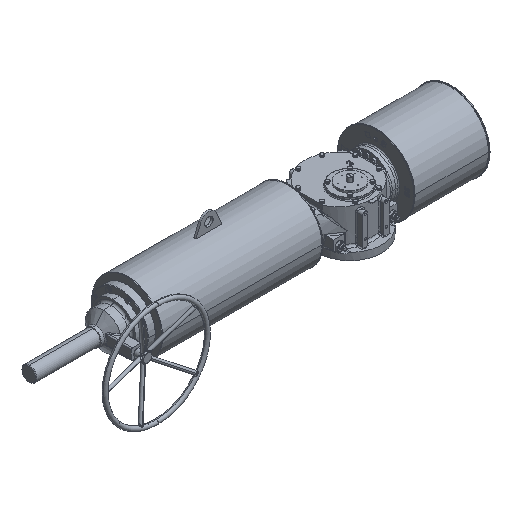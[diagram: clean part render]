
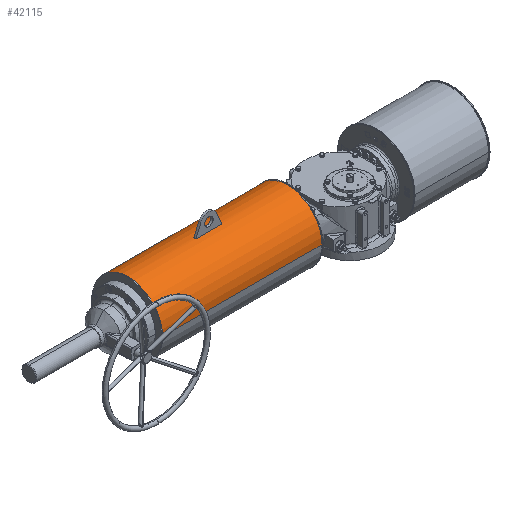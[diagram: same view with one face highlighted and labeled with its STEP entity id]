
A CAD part, isometric view. The second image highlights one B-rep face of the part: STEP entity #42115.
In plain terms, the highlighted cylindrical face has radius 162.5 mm (diameter 325 mm), a partial arc.
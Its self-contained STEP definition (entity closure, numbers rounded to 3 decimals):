
#762 = DIRECTION ( 'NONE',  ( 0., -1., 0. ) ) ;
#1183 = AXIS2_PLACEMENT_3D ( 'NONE', #63969, #70710, #762 ) ;
#1574 = CARTESIAN_POINT ( 'NONE',  ( -519.5, 40.5, 236.923 ) ) ;
#2757 = VERTEX_POINT ( 'NONE', #1574 ) ;
#2997 = EDGE_CURVE ( 'NONE', #88833, #85033, #65164, .T. ) ;
#3148 = ORIENTED_EDGE ( 'NONE', *, *, #82148, .T. ) ;
#3751 = VERTEX_POINT ( 'NONE', #89829 ) ;
#4357 = CARTESIAN_POINT ( 'NONE',  ( -519.5, 35.5, 74.5 ) ) ;
#4506 = CARTESIAN_POINT ( 'NONE',  ( -519.5, 30.5, 236.923 ) ) ;
#5048 = CARTESIAN_POINT ( 'NONE',  ( -208., 40.5, 236.923 ) ) ;
#5269 = VERTEX_POINT ( 'NONE', #4506 ) ;
#6048 = DIRECTION ( 'NONE',  ( 0., -1., 0. ) ) ;
#7636 = VECTOR ( 'NONE', #36177, 1000. ) ;
#10938 = EDGE_LOOP ( 'NONE', ( #21147, #77316, #11530, #59486, #77010, #41631 ) ) ;
#11108 = DIRECTION ( 'NONE',  ( -1., 0., 0. ) ) ;
#11530 = ORIENTED_EDGE ( 'NONE', *, *, #66554, .T. ) ;
#12431 = EDGE_CURVE ( 'NONE', #2757, #85033, #45410, .T. ) ;
#13370 = CARTESIAN_POINT ( 'NONE',  ( -954., -127., 74.5 ) ) ;
#15917 = CARTESIAN_POINT ( 'NONE',  ( -954., 198., 74.5 ) ) ;
#16444 = DIRECTION ( 'NONE',  ( -1., 0., 0. ) ) ;
#17156 = CARTESIAN_POINT ( 'NONE',  ( -208., -127., 74.5 ) ) ;
#19739 = EDGE_CURVE ( 'NONE', #78498, #75261, #100005, .T. ) ;
#20185 = DIRECTION ( 'NONE',  ( 0., 1., 0. ) ) ;
#20432 = EDGE_LOOP ( 'NONE', ( #23156, #3148, #32514, #45677 ) ) ;
#21147 = ORIENTED_EDGE ( 'NONE', *, *, #12431, .F. ) ;
#23156 = ORIENTED_EDGE ( 'NONE', *, *, #19739, .T. ) ;
#23388 = CARTESIAN_POINT ( 'NONE',  ( -208., 198., 74.5 ) ) ;
#23919 = AXIS2_PLACEMENT_3D ( 'NONE', #36614, #92527, #6048 ) ;
#24619 = CARTESIAN_POINT ( 'NONE',  ( -639.5, 35.5, 237. ) ) ;
#27880 = VERTEX_POINT ( 'NONE', #13370 ) ;
#29697 = EDGE_CURVE ( 'NONE', #5269, #3751, #82031, .T. ) ;
#32514 = ORIENTED_EDGE ( 'NONE', *, *, #66064, .T. ) ;
#33866 = AXIS2_PLACEMENT_3D ( 'NONE', #71922, #63664, #54871 ) ;
#36175 = VECTOR ( 'NONE', #11108, 1000. ) ;
#36177 = DIRECTION ( 'NONE',  ( -1., 0., 0. ) ) ;
#36461 = DIRECTION ( 'NONE',  ( 0., -1., 0. ) ) ;
#36614 = CARTESIAN_POINT ( 'NONE',  ( -205., 35.5, 74.5 ) ) ;
#37087 = AXIS2_PLACEMENT_3D ( 'NONE', #99428, #67324, #20185 ) ;
#41631 = ORIENTED_EDGE ( 'NONE', *, *, #2997, .T. ) ;
#42115 = ADVANCED_FACE ( 'NONE', ( #100917, #55789 ), #86830, .T. ) ;
#42762 = EDGE_CURVE ( 'NONE', #78498, #27880, #75477, .T. ) ;
#43788 = CIRCLE ( 'NONE', #33866, 162.5 ) ;
#44303 = CIRCLE ( 'NONE', #82358, 162.5 ) ;
#45410 = LINE ( 'NONE', #5048, #73883 ) ;
#45677 = ORIENTED_EDGE ( 'NONE', *, *, #42762, .F. ) ;
#45860 = CIRCLE ( 'NONE', #1183, 162.5 ) ;
#47780 = AXIS2_PLACEMENT_3D ( 'NONE', #4357, #92872, #36461 ) ;
#49295 = DIRECTION ( 'NONE',  ( 1., 0., 0. ) ) ;
#49386 = CIRCLE ( 'NONE', #47780, 162.5 ) ;
#49420 = CARTESIAN_POINT ( 'NONE',  ( -208., 30.5, 236.923 ) ) ;
#52389 = CARTESIAN_POINT ( 'NONE',  ( -639.5, 40.5, 236.923 ) ) ;
#53707 = VECTOR ( 'NONE', #79754, 1000. ) ;
#54000 = CARTESIAN_POINT ( 'NONE',  ( -205., -127., 74.5 ) ) ;
#54871 = DIRECTION ( 'NONE',  ( 0., 1., 0. ) ) ;
#55789 = FACE_OUTER_BOUND ( 'NONE', #20432, .T. ) ;
#59486 = ORIENTED_EDGE ( 'NONE', *, *, #29697, .T. ) ;
#61473 = DIRECTION ( 'NONE',  ( -1., 0., 0. ) ) ;
#61527 = DIRECTION ( 'NONE',  ( 0., -1., 0. ) ) ;
#61564 = EDGE_CURVE ( 'NONE', #3751, #88833, #43788, .T. ) ;
#63664 = DIRECTION ( 'NONE',  ( -1., 0., 0. ) ) ;
#63840 = DIRECTION ( 'NONE',  ( 0., -1., 0. ) ) ;
#63969 = CARTESIAN_POINT ( 'NONE',  ( -954., 35.5, 74.5 ) ) ;
#64772 = LINE ( 'NONE', #23388, #53707 ) ;
#65164 = CIRCLE ( 'NONE', #37087, 162.5 ) ;
#65424 = AXIS2_PLACEMENT_3D ( 'NONE', #87347, #16444, #61527 ) ;
#66064 = EDGE_CURVE ( 'NONE', #77768, #27880, #45860, .T. ) ;
#66554 = EDGE_CURVE ( 'NONE', #74739, #5269, #44303, .T. ) ;
#67324 = DIRECTION ( 'NONE',  ( -1., 0., 0. ) ) ;
#70710 = DIRECTION ( 'NONE',  ( 1., 0., 0. ) ) ;
#70929 = CARTESIAN_POINT ( 'NONE',  ( -519.5, 35.5, 237. ) ) ;
#71922 = CARTESIAN_POINT ( 'NONE',  ( -639.5, 35.5, 74.5 ) ) ;
#73883 = VECTOR ( 'NONE', #61473, 1000. ) ;
#74739 = VERTEX_POINT ( 'NONE', #70929 ) ;
#75261 = VERTEX_POINT ( 'NONE', #81095 ) ;
#75477 = LINE ( 'NONE', #17156, #7636 ) ;
#77010 = ORIENTED_EDGE ( 'NONE', *, *, #61564, .T. ) ;
#77316 = ORIENTED_EDGE ( 'NONE', *, *, #88099, .T. ) ;
#77768 = VERTEX_POINT ( 'NONE', #15917 ) ;
#78498 = VERTEX_POINT ( 'NONE', #54000 ) ;
#79754 = DIRECTION ( 'NONE',  ( -1., 0., 0. ) ) ;
#81095 = CARTESIAN_POINT ( 'NONE',  ( -205., 198., 74.5 ) ) ;
#82031 = LINE ( 'NONE', #49420, #36175 ) ;
#82148 = EDGE_CURVE ( 'NONE', #75261, #77768, #64772, .T. ) ;
#82358 = AXIS2_PLACEMENT_3D ( 'NONE', #93389, #49295, #63840 ) ;
#85033 = VERTEX_POINT ( 'NONE', #52389 ) ;
#86830 = CYLINDRICAL_SURFACE ( 'NONE', #65424, 162.5 ) ;
#87347 = CARTESIAN_POINT ( 'NONE',  ( -208., 35.5, 74.5 ) ) ;
#88099 = EDGE_CURVE ( 'NONE', #2757, #74739, #49386, .T. ) ;
#88833 = VERTEX_POINT ( 'NONE', #24619 ) ;
#89829 = CARTESIAN_POINT ( 'NONE',  ( -639.5, 30.5, 236.923 ) ) ;
#92527 = DIRECTION ( 'NONE',  ( -1., 0., 0. ) ) ;
#92872 = DIRECTION ( 'NONE',  ( 1., 0., 0. ) ) ;
#93389 = CARTESIAN_POINT ( 'NONE',  ( -519.5, 35.5, 74.5 ) ) ;
#99428 = CARTESIAN_POINT ( 'NONE',  ( -639.5, 35.5, 74.5 ) ) ;
#100005 = CIRCLE ( 'NONE', #23919, 162.5 ) ;
#100917 = FACE_BOUND ( 'NONE', #10938, .T. ) ;
